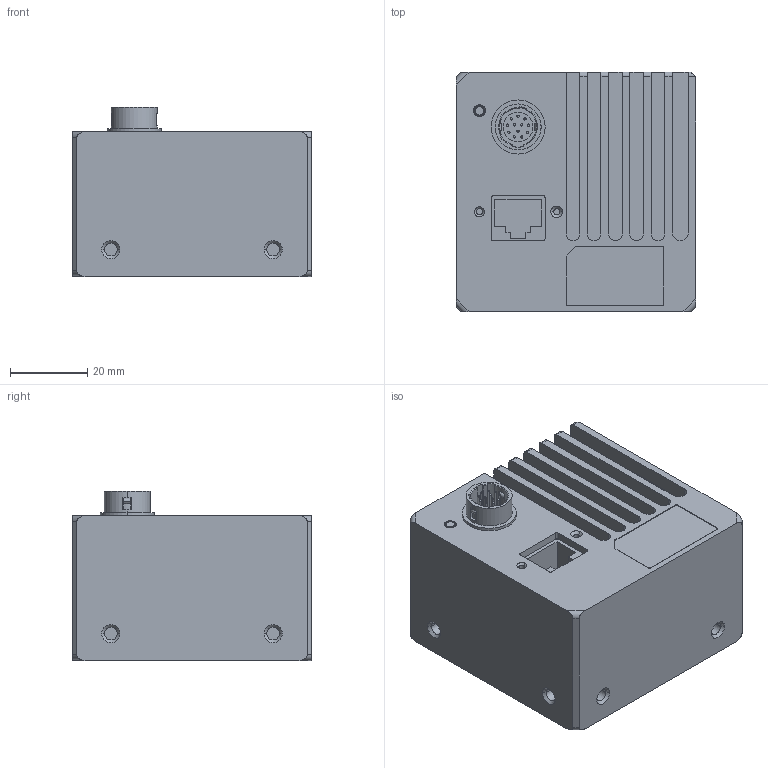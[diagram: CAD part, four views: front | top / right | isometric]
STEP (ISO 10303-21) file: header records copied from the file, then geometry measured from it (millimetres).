
FILE_DESCRIPTION((''),'2;1');
FILE_NAME('LINE-CAMERA_3D','2017-02-07T',('wanggangqiang'),(''),'PRO/ENGINEER BY PARAMETRIC TECHNOLOGY CORPORATION, 2016100','PRO/ENGINEER BY PARAMETRIC TECHNOLOGY CORPORATION, 2016100','');
FILE_SCHEMA(('CONFIG_CONTROL_DESIGN'));
Length unit declared in the file: millimetre
Products named in the file (1): LINE-CAMERA_3D
Bounding box: 62 x 62 x 43.8 mm (x, y, z)
Volume: 129198.6 mm3; surface area: 21891.8 mm2
Topology: 1 solids, 1 shells, 275 faces, 768 edges, 528 vertices
Faces by surface type: plane 124, cylinder 112, cone 37, torus 2
Entity records: 9223 total; most frequent: CARTESIAN_POINT 1734, DIRECTION 1649, ORIENTED_EDGE 1536, EDGE_CURVE 768, AXIS2_PLACEMENT_3D 637, VERTEX_POINT 528, VECTOR 375, LINE 375
